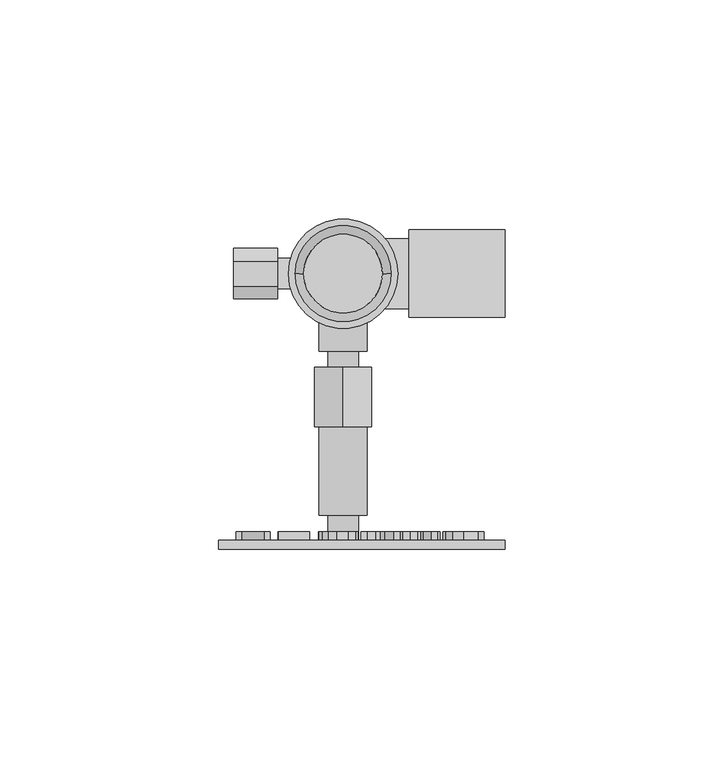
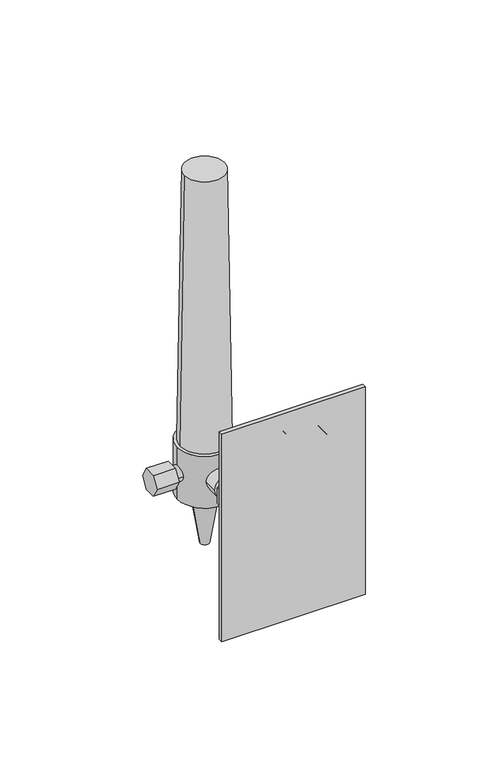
"""IFC4 building model written with IfcOpenShell, lengths in millimetres: proxy geometry, BIMHealth-Flowmeter_Oxygen-LOD2A-v1 : BIMHealth-Flowmeter_Oxygen-LOD2A-v1."""

from ifc_helpers import new_model, si_unit, point, frame, frame_2d, origin, origin_2d, place, context, project, spatial, polyline, circle_curve, trimmed, segment, composite_curve, outline, extrude, source, transform, mapped, element, save
from ifc_brep_helpers import plane_surface, cylinder_surface, revolved_surface, advanced_brep


def generic_models_60647dcf(model_context):
    return source(origin(), model_context, "Body", "SolidModel", [
        extrude(outline(polyline([(1261.3333647, 32.1837079), (1265.1578839, 30.8712079), (1266.5400955, 27.4841887), (1265.891057, 25.0346694), (1264.0809608, 23.3712079), (1261.4463455, 22.7990925), (1258.7756724, 23.401256), (1256.9920185, 25.1079868), (1256.3862493, 27.4914002), (1257.0557205, 29.9673618), (1258.8826435, 31.6212079), (1261.3333647, 32.1837079)]), holes=[polyline([(1261.3213455, 30.9529387), (1258.6074032, 29.9685637), (1257.6170185, 27.4986118), (1258.6170185, 25.0070252), (1261.4559608, 24.0298618), (1263.4872108, 24.448131), (1264.8321628, 25.6704868), (1265.3093262, 27.4769771), (1264.3898551, 29.9264964), (1261.3213455, 30.9529387)])]), frame((0.0, -60.9451551, 0.0), z_axis=(0.0, 1.0, 0.0), x_axis=(0.0, 0.0, 1.0)), (0.0, 0.0, 1.0), 2.0),
        extrude(outline(polyline([(1256.5400955, 22.1837079), (1261.9054801, 18.3904387), (1266.3862493, 21.5683233), (1266.3862493, 20.0947656), (1263.8622108, 18.3039002), (1262.8790378, 17.7005348), (1263.8838455, 16.9938041), (1266.3862493, 15.2221694), (1266.3862493, 13.7221694), (1261.8886532, 16.9024579), (1256.5400955, 13.1067848), (1256.5400955, 14.5827464), (1260.1049993, 17.1139964), (1260.8429801, 17.6404387), (1260.0328839, 18.2149579), (1256.5400955, 20.6837079), (1256.5400955, 22.1837079)])), frame((0.0, -60.9451551, 0.0), z_axis=(0.0, 1.0, 0.0), x_axis=(0.0, 0.0, 1.0)), (0.0, 0.0, 1.0), 2.0),
        extrude(outline(polyline([(1256.5400955, 9.1067848), (1260.7107685, 9.1067848), (1266.3862493, 12.9529387), (1266.3862493, 11.5034194), (1263.3549993, 9.4505348), (1261.8069224, 8.4000541), (1263.4655762, 7.3447656), (1266.3862493, 5.4817848), (1266.3862493, 4.0298618), (1260.7107685, 7.8760156), (1256.5400955, 7.8760156), (1256.5400955, 9.1067848)])), frame((0.0, -60.9451551, 0.0), z_axis=(0.0, 1.0, 0.0), x_axis=(0.0, 0.0, 1.0)), (0.0, 0.0, 1.0), 2.0),
        extrude(outline(polyline([(1260.3862493, -1.6624459), (1261.6170185, -1.6624459), (1261.6170185, -5.6624459), (1257.9367301, -5.6624459), (1256.7756724, -3.6876863), (1256.3862493, -1.5999459), (1257.0052397, 1.0286598), (1258.797307, 2.8123137), (1261.4150955, 3.4144771), (1264.0917782, 2.8147175), (1265.9367301, 1.0899579), (1266.5400955, -1.5013882), (1266.1903358, -3.426869), (1265.2167782, -4.7766286), (1263.5881724, -5.520619), (1263.2684608, -4.3860036), (1264.406682, -3.8247056), (1265.062932, -2.8655709), (1265.3093262, -1.4821575), (1265.0437012, 0.0935637), (1264.3465858, 1.1656791), (1263.3982685, 1.7990925), (1261.4655762, 2.1837079), (1259.3201435, 1.7209675), (1258.0364897, 0.3748137), (1257.6170185, -1.5013882), (1257.9331243, -3.1852825), (1258.6074032, -4.4316767), (1260.3862493, -4.4316767), (1260.3862493, -1.6624459)])), frame((0.0, -60.9451551, 0.0), z_axis=(0.0, 1.0, 0.0), x_axis=(0.0, 0.0, 1.0)), (0.0, 0.0, 1.0), 2.0),
        extrude(outline(polyline([(1256.5400955, -7.6624459), (1266.3862493, -7.6624459), (1266.3862493, -14.739369), (1265.1554801, -14.739369), (1265.1554801, -8.8932152), (1262.2324032, -8.8932152), (1262.2324032, -14.4316767), (1261.0016339, -14.4316767), (1261.0016339, -8.8932152), (1257.7708647, -8.8932152), (1257.7708647, -14.8932152), (1256.5400955, -14.8932152), (1256.5400955, -7.6624459)])), frame((0.0, -60.9451551, 0.0), z_axis=(0.0, 1.0, 0.0), x_axis=(0.0, 0.0, 1.0)), (0.0, 0.0, 1.0), 2.0),
        extrude(outline(polyline([(1256.5400955, -16.739369), (1266.3862493, -16.739369), (1266.3862493, -18.0566767), (1258.5857685, -23.2009075), (1266.3862493, -23.2009075), (1266.3862493, -24.4316767), (1256.5400955, -24.4316767), (1256.5400955, -23.114369), (1264.3429801, -17.9701382), (1256.5400955, -17.9701382), (1256.5400955, -16.739369)])), frame((0.0, -60.9451551, 0.0), z_axis=(0.0, 1.0, 0.0), x_axis=(0.0, 0.0, 1.0)), (0.0, 0.0, 1.0), 2.0),
        extrude(outline(polyline([(37.0, -62.9451551), (-28.4571603, -62.9451551), (-28.4571603, -60.9451551), (37.0, -60.9451551), (37.0, -62.9451551)])), frame((0.0, 0.0, 1175.0), z_axis=(0.0, 0.0, 1.0), x_axis=(1.0, 0.0, 0.0)), (0.0, 0.0, 1.0), 100.0),
        advanced_brep(
        [(-15.0, -5.7735027, 1212.5), (-15.0, -2.8867513, 1207.5), (-15.0, 2.8867513, 1207.5), (-15.0, 5.7735027, 1212.5), (-15.0, 2.8867513, 1217.5), (-15.0, -2.8867513, 1217.5), (-15.0, 3.5, 1212.5), (-15.0, -3.5, 1212.5), (-25.0, -5.7735027, 1212.5), (-25.0, -2.8867513, 1217.5), (-25.0, 2.8867513, 1217.5), (-25.0, 5.7735027, 1212.5), (-25.0, 2.8867513, 1207.5), (-25.0, -2.8867513, 1207.5), (0.0, -3.5, 1212.5), (0.0, 3.5, 1212.5)],
        [
            (0, 1),
            (1, 2),
            (2, 3),
            (3, 4),
            (4, 5),
            (5, 0),
            (6, 7, circle_curve(frame((-15.0, 0.0, 1212.5), z_axis=(-1.0, 0.0, 0.0), x_axis=(0.0, 1.0, 0.0)), 3.5)),
            (7, 6, circle_curve(frame((-15.0, 0.0, 1212.5), z_axis=(-1.0, 0.0, 0.0), x_axis=(0.0, 1.0, 0.0)), 3.5)),
            (8, 9),
            (9, 10),
            (10, 11),
            (11, 12),
            (12, 13),
            (13, 8),
            (0, 8),
            (13, 1),
            (12, 2),
            (11, 3),
            (10, 4),
            (9, 5),
            (14, 15, circle_curve(frame((0.0, 0.0, 1212.5), z_axis=(1.0, 0.0, 0.0), x_axis=(0.0, 1.0, 0.0)), 3.5)),
            (15, 14, circle_curve(frame((0.0, 0.0, 1212.5), z_axis=(1.0, 0.0, 0.0), x_axis=(0.0, 1.0, 0.0)), 3.5)),
            (14, 7),
            (6, 15),
        ],
        [
            plane_surface(frame((-15.0, -5.7735027, 1212.5), z_axis=(1.0000000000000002, 0.0, 0.0), x_axis=(0.0, 0.5000000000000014, -0.8660254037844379))),
            plane_surface(frame((-25.0, -5.7735027, 1212.5), z_axis=(-1.0000000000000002, 0.0, 0.0), x_axis=(0.0, -0.5000000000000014, 0.8660254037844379))),
            plane_surface(frame((-15.0, -5.7735027, 1212.5), z_axis=(0.0, -0.8660254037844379, -0.5000000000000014), x_axis=(-1.0, 0.0, 0.0))),
            plane_surface(frame((-15.0, -2.8867513, 1207.5), z_axis=(0.0, 0.0, -1.0), x_axis=(-1.0, 0.0, 0.0))),
            plane_surface(frame((-15.0, 2.8867513, 1207.5), z_axis=(0.0, 0.8660254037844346, -0.5000000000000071), x_axis=(-1.0, 0.0, 0.0))),
            plane_surface(frame((-15.0, 5.7735027, 1212.5), z_axis=(0.0, 0.8660254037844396, 0.4999999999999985), x_axis=(-1.0, 0.0, 0.0))),
            plane_surface(frame((-15.0, 2.8867513, 1217.5), z_axis=(0.0, 0.0, 1.0), x_axis=(-1.0, 0.0, 0.0))),
            plane_surface(frame((-15.0, -2.8867513, 1217.5), z_axis=(0.0, -0.8660254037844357, 0.5000000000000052), x_axis=(-1.0, 0.0, 0.0))),
            plane_surface(frame((0.0, 3.5, 1212.5), z_axis=(1.0, 0.0, 0.0), x_axis=(0.0, 0.0, 1.0))),
            cylinder_surface(frame((-15.0, 0.0, 1212.5), z_axis=(1.0, 0.0, 0.0), x_axis=(0.0, 1.0, 0.0)), 3.5),
        ],
        [
            (0, [[1, 2, 3, 4, 5, 6], [7, 8]]),
            (1, [[9, 10, 11, 12, 13, 14]]),
            (2, [[-1, 15, -14, 16]]),
            (3, [[-2, -16, -13, 17]]),
            (4, [[-3, -17, -12, 18]]),
            (5, [[-4, -18, -11, 19]]),
            (6, [[-5, -19, -10, 20]]),
            (7, [[-6, -20, -9, -15]]),
            (8, [[21, 22]]),
            (9, [[-21, 23, -7, 24]]),
            (9, [[-22, -24, -8, -23]]),
        ],
    ),
        advanced_brep(
        [(3.5, -60.9451551, 1212.5), (-3.5, -60.9451551, 1212.5), (3.5, -55.2141436, 1212.5), (-3.5, -55.2141436, 1212.5), (5.5, -55.2141436, 1212.5), (-5.5, -55.2141436, 1212.5), (5.5, -34.9541654, 1212.5), (-5.5, -34.9541654, 1212.5), (-6.4951905, -34.9541654, 1216.25), (-6.4951905, -34.9541654, 1208.75), (0.0, -34.9541654, 1205.0), (6.4951905, -34.9541654, 1208.75), (6.4951905, -34.9541654, 1216.25), (0.0, -34.9541654, 1220.0), (-6.4951905, -21.3523267, 1216.25), (0.0, -21.3523267, 1220.0), (6.4951905, -21.3523267, 1216.25), (6.4951905, -21.3523267, 1208.75), (0.0, -21.3523267, 1205.0), (-6.4951905, -21.3523267, 1208.75), (3.5, -21.3523267, 1212.5), (-3.5, -21.3523267, 1212.5), (3.5, -17.7343884, 1212.5), (-3.5, -17.7343884, 1212.5), (5.5, -17.7343884, 1212.5), (-5.5, -17.7343884, 1212.5), (5.5, 0.0, 1212.5), (-5.5, 0.0, 1212.5)],
        [
            (0, 1, circle_curve(frame((0.0, -60.9451551, 1212.5), z_axis=(0.0, -1.0, 0.0), x_axis=(-1.0, 0.0, 0.0)), 3.5)),
            (1, 0, circle_curve(frame((0.0, -60.9451551, 1212.5), z_axis=(0.0, -1.0, 0.0), x_axis=(-1.0, 0.0, 0.0)), 3.5)),
            (0, 2),
            (2, 3, circle_curve(frame((0.0, -55.2141436, 1212.5), z_axis=(0.0, -1.0, 0.0), x_axis=(-1.0, 0.0, 0.0)), 3.5)),
            (3, 1),
            (3, 2, circle_curve(frame((0.0, -55.2141436, 1212.5), z_axis=(0.0, -1.0, 0.0), x_axis=(-1.0, 0.0, 0.0)), 3.5)),
            (4, 5, circle_curve(frame((0.0, -55.2141436, 1212.5), z_axis=(0.0, -1.0, 0.0), x_axis=(-1.0, 0.0, 0.0)), 5.5)),
            (5, 4, circle_curve(frame((0.0, -55.2141436, 1212.5), z_axis=(0.0, -1.0, 0.0), x_axis=(-1.0, 0.0, 0.0)), 5.5)),
            (4, 6),
            (6, 7, circle_curve(frame((0.0, -34.9541654, 1212.5), z_axis=(0.0, -1.0, 0.0), x_axis=(-1.0, 0.0, 0.0)), 5.5)),
            (7, 5),
            (7, 6, circle_curve(frame((0.0, -34.9541654, 1212.5), z_axis=(0.0, -1.0, 0.0), x_axis=(-1.0, 0.0, 0.0)), 5.5)),
            (8, 9),
            (9, 10),
            (10, 11),
            (11, 12),
            (12, 13),
            (13, 8),
            (14, 15),
            (15, 16),
            (16, 17),
            (17, 18),
            (18, 19),
            (19, 14),
            (20, 21, circle_curve(frame((0.0, -21.3523267, 1212.5), z_axis=(0.0, -1.0, 0.0), x_axis=(-1.0, 0.0, 0.0)), 3.5)),
            (21, 20, circle_curve(frame((0.0, -21.3523267, 1212.5), z_axis=(0.0, -1.0, 0.0), x_axis=(-1.0, 0.0, 0.0)), 3.5)),
            (8, 14),
            (19, 9),
            (18, 10),
            (17, 11),
            (16, 12),
            (15, 13),
            (20, 22),
            (22, 23, circle_curve(frame((0.0, -17.7343884, 1212.5), z_axis=(0.0, -1.0, 0.0), x_axis=(-1.0, 0.0, 0.0)), 3.5)),
            (23, 21),
            (23, 22, circle_curve(frame((0.0, -17.7343884, 1212.5), z_axis=(0.0, -1.0, 0.0), x_axis=(-1.0, 0.0, 0.0)), 3.5)),
            (24, 25, circle_curve(frame((0.0, -17.7343884, 1212.5), z_axis=(0.0, -1.0, 0.0), x_axis=(-1.0, 0.0, 0.0)), 5.5)),
            (25, 24, circle_curve(frame((0.0, -17.7343884, 1212.5), z_axis=(0.0, -1.0, 0.0), x_axis=(-1.0, 0.0, 0.0)), 5.5)),
            (26, 27, circle_curve(frame((0.0, 0.0, 1212.5), z_axis=(0.0, 1.0, 0.0), x_axis=(-1.0, 0.0, 0.0)), 5.5)),
            (27, 26, circle_curve(frame((0.0, 0.0, 1212.5), z_axis=(0.0, 1.0, 0.0), x_axis=(-1.0, 0.0, 0.0)), 5.5)),
            (24, 26),
            (27, 25),
        ],
        [
            plane_surface(frame((-3.5, -60.9451551, 1212.5), z_axis=(0.0, -1.0, 0.0), x_axis=(0.0, 0.0, -1.0))),
            cylinder_surface(frame((0.0, -55.2141436, 1212.5), z_axis=(0.0, -1.0, 0.0), x_axis=(-1.0, 0.0, 0.0)), 3.5),
            plane_surface(frame((-5.5, -55.2141436, 1212.5), z_axis=(0.0, -1.0, 0.0), x_axis=(0.0, 0.0, -1.0))),
            cylinder_surface(frame((0.0, -34.9541654, 1212.5), z_axis=(0.0, -1.0, 0.0), x_axis=(-1.0, 0.0, 0.0)), 5.5),
            plane_surface(frame((-6.4951905, -34.9541654, 1216.25), z_axis=(0.0, -1.0, 0.0), x_axis=(0.0, 0.0, -1.0))),
            plane_surface(frame((-6.4951905, -21.3523267, 1216.25), z_axis=(0.0, 1.0, 0.0), x_axis=(0.0, 0.0, 1.0))),
            plane_surface(frame((-6.4951905, -34.9541654, 1216.25), z_axis=(-1.0, 0.0, 0.0), x_axis=(0.0, 1.0, 0.0))),
            plane_surface(frame((-6.4951905, -34.9541654, 1208.75), z_axis=(-0.5000000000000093, 0.0, -0.8660254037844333), x_axis=(0.0, 1.0, 0.0))),
            plane_surface(frame((0.0, -34.9541654, 1205.0), z_axis=(0.4999999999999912, 0.0, -0.8660254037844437), x_axis=(0.0, 1.0, 0.0))),
            plane_surface(frame((6.4951905, -34.9541654, 1208.75), z_axis=(1.0, 0.0, 0.0), x_axis=(0.0, 1.0, 0.0))),
            plane_surface(frame((6.4951905, -34.9541654, 1216.25), z_axis=(0.5000000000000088, 0.0, 0.8660254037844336), x_axis=(0.0, 1.0, 0.0))),
            plane_surface(frame((0.0, -34.9541654, 1220.0), z_axis=(-0.49999999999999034, 0.0, 0.8660254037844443), x_axis=(0.0, 1.0, 0.0))),
            cylinder_surface(frame((0.0, -17.7343884, 1212.5), z_axis=(0.0, -1.0, 0.0), x_axis=(-1.0, 0.0, 0.0)), 3.5),
            plane_surface(frame((-5.5, -17.7343884, 1212.5), z_axis=(0.0, -1.0, 0.0), x_axis=(0.0, 0.0, -1.0))),
            plane_surface(frame((-5.5, 0.0, 1212.5), z_axis=(0.0, 1.0, 0.0), x_axis=(0.0, 0.0, 1.0))),
            cylinder_surface(frame((0.0, 0.0, 1212.5), z_axis=(0.0, -1.0, 0.0), x_axis=(-1.0, 0.0, 0.0)), 5.5),
        ],
        [
            (0, [[1, 2]]),
            (1, [[-1, 3, 4, 5]]),
            (1, [[-2, -5, 6, -3]]),
            (2, [[7, 8], [-4, -6]]),
            (3, [[-7, 9, 10, 11]]),
            (3, [[-8, -11, 12, -9]]),
            (4, [[13, 14, 15, 16, 17, 18], [-10, -12]]),
            (5, [[19, 20, 21, 22, 23, 24], [25, 26]]),
            (6, [[-13, 27, -24, 28]]),
            (7, [[-14, -28, -23, 29]]),
            (8, [[-15, -29, -22, 30]]),
            (9, [[-16, -30, -21, 31]]),
            (10, [[-17, -31, -20, 32]]),
            (11, [[-18, -32, -19, -27]]),
            (12, [[33, 34, 35, -25]]),
            (12, [[-33, -26, -35, 36]]),
            (13, [[37, 38], [-34, -36]]),
            (14, [[39, 40]]),
            (15, [[-37, 41, -40, 42]]),
            (15, [[-38, -42, -39, -41]]),
        ],
    ),
        advanced_brep(
        [(-9.0, 0.0, 1355.0), (9.0, 0.0, 1355.0), (-11.0, 0.0, 1225.0), (11.0, 0.0, 1225.0)],
        [
            (0, 1, circle_curve(frame((0.0, 0.0, 1355.0), z_axis=(0.0, 0.0, 1.0), x_axis=(-1.0, 0.0, 0.0)), 9.0)),
            (1, 0, circle_curve(frame((0.0, 0.0, 1355.0), z_axis=(0.0, 0.0, 1.0), x_axis=(1.0, 0.0, 0.0)), 9.0)),
            (2, 3, circle_curve(frame((0.0, 0.0, 1225.0), z_axis=(0.0, 0.0, -1.0), x_axis=(1.0, 0.0, 0.0)), 11.0)),
            (3, 2, circle_curve(frame((0.0, 0.0, 1225.0), z_axis=(0.0, 0.0, -1.0), x_axis=(-1.0, 0.0, 0.0)), 11.0)),
            (3, 1),
            (0, 2),
        ],
        [
            plane_surface(frame((0.0, 0.0, 1355.0), z_axis=(0.0, 0.0, 1.0), x_axis=(0.0, -1.0, 0.0))),
            plane_surface(frame((0.0, 0.0, 1225.0), z_axis=(0.0, 0.0, -1.0), x_axis=(0.0, -1.0, 0.0))),
            revolved_surface(polyline([(-9.0, 0.0, 1355.0), (-11.0, 0.0, 1225.0)]), (0.0, 0.0, 1940.0), (0.0, 0.0, -1.0)),
            revolved_surface(polyline([(9.0, 0.0, 1355.0), (11.0, 0.0, 1225.0)]), (0.0, 0.0, 1940.0), (0.0, 0.0, -1.0)),
        ],
        [
            (0, [[1, 2]]),
            (1, [[3, 4]]),
            (2, [[-4, 5, -1, 6]]),
            (3, [[-3, -6, -2, -5]]),
        ],
    ),
        extrude(outline(composite_curve([segment(trimmed(circle_curve(frame_2d((0.0, 1212.5)), 8.0), [point((8.0, 1212.5))], [point((-8.0, 1212.5))], False, "CARTESIAN"), True, "CONTINUOUS"), segment(trimmed(circle_curve(frame_2d((0.0, 1212.5)), 8.0), [point((-8.0, 1212.5))], [point((8.0, 1212.5))], False, "CARTESIAN"), True, "CONTINUOUS")], self_intersect=False)), frame((0.0, 0.0, 0.0), z_axis=(1.0, 0.0, 0.0), x_axis=(0.0, 1.0, 0.0)), (0.0, 0.0, 1.0), 15.0),
        extrude(outline(composite_curve([segment(trimmed(circle_curve(frame_2d((0.0, 1212.5)), 10.0), [point((10.0, 1212.5))], [point((-10.0, 1212.5))], False, "CARTESIAN"), True, "CONTINUOUS"), segment(trimmed(circle_curve(frame_2d((0.0, 1212.5)), 10.0), [point((-10.0, 1212.5))], [point((10.0, 1212.5))], False, "CARTESIAN"), True, "CONTINUOUS")], self_intersect=False)), frame((15.0, 0.0, 0.0), z_axis=(1.0, 0.0, 0.0), x_axis=(0.0, 1.0, 0.0)), (0.0, 0.0, 1.0), 22.0),
        advanced_brep(
        [(-6.0, 0.0, 1200.0), (6.0, 0.0, 1200.0), (-2.0, 0.0, 1175.0), (2.0, 0.0, 1175.0)],
        [
            (0, 1, circle_curve(frame((0.0, 0.0, 1200.0), z_axis=(0.0, 0.0, 1.0), x_axis=(-1.0, 0.0, 0.0)), 6.0)),
            (1, 0, circle_curve(frame((0.0, 0.0, 1200.0), z_axis=(0.0, 0.0, 1.0), x_axis=(1.0, 0.0, 0.0)), 6.0)),
            (2, 3, circle_curve(frame((0.0, 0.0, 1175.0), z_axis=(0.0, 0.0, -1.0), x_axis=(1.0, 0.0, 0.0)), 2.0)),
            (3, 2, circle_curve(frame((0.0, 0.0, 1175.0), z_axis=(0.0, 0.0, -1.0), x_axis=(-1.0, 0.0, 0.0)), 2.0)),
            (3, 1),
            (0, 2),
        ],
        [
            plane_surface(frame((0.0, 0.0, 1200.0), z_axis=(0.0, 0.0, 1.0), x_axis=(0.0, -1.0, 0.0))),
            plane_surface(frame((0.0, 0.0, 1175.0), z_axis=(0.0, 0.0, -1.0), x_axis=(0.0, -1.0, 0.0))),
            revolved_surface(polyline([(2.0, 0.0, 1175.0), (6.0, 0.0, 1200.0)]), (0.0, 0.0, 1162.5), (0.0, 0.0, 1.0)),
            revolved_surface(polyline([(-2.0, 0.0, 1175.0), (-6.0, 0.0, 1200.0)]), (0.0, 0.0, 1162.5), (0.0, 0.0, 1.0)),
        ],
        [
            (0, [[1, 2]]),
            (1, [[3, 4]]),
            (2, [[-4, 5, -1, 6]]),
            (3, [[-3, -6, -2, -5]]),
        ],
    ),
        extrude(outline(composite_curve([segment(trimmed(circle_curve(origin_2d(), 12.5), [point((-12.5, 0.0))], [point((12.5, 0.0))], False, "CARTESIAN"), True, "CONTINUOUS"), segment(trimmed(circle_curve(origin_2d(), 12.5), [point((12.5, 0.0))], [point((-12.5, 0.0))], False, "CARTESIAN"), True, "CONTINUOUS")], self_intersect=False)), frame((0.0, 0.0, 1200.0), z_axis=(0.0, 0.0, 1.0), x_axis=(1.0, 0.0, 0.0)), (0.0, 0.0, 1.0), 25.0),
    ])


if __name__ == "__main__":
    model = new_model("IFC4")
    model_context = context("Model", 3, world=origin())
    ifc_project = project(units=[si_unit("LENGTHUNIT", "METRE", prefix="MILLI")], contexts=[model_context])
    site = spatial("IfcSite", under=ifc_project)
    building = spatial("IfcBuilding", under=site)
    placement = place(None, origin())
    generic_models_shape = generic_models_60647dcf(model_context)
    element("IfcBuildingElementProxy", 1, Name="BIMHealth-Flowmeter_Oxygen-LOD2A-v1 : BIMHealth-Flowmeter_Oxygen-LOD2A-v1", ObjectType="BIMHealth-Flowmeter_Oxygen-LOD2A-v1 : BIMHealth-Flowmeter_Oxygen-LOD2A-v1", at=placement, inside=building, context=model_context, shape_type="MappedRepresentation", body=[
        mapped(generic_models_shape, transform((0.0, 0.0, 0.0), x_axis=(1.0, 0.0, 0.0), y_axis=(0.0, 1.0, 0.0), z_axis=(0.0, 0.0, 1.0))),
    ])
    save(model, "model.ifc")
